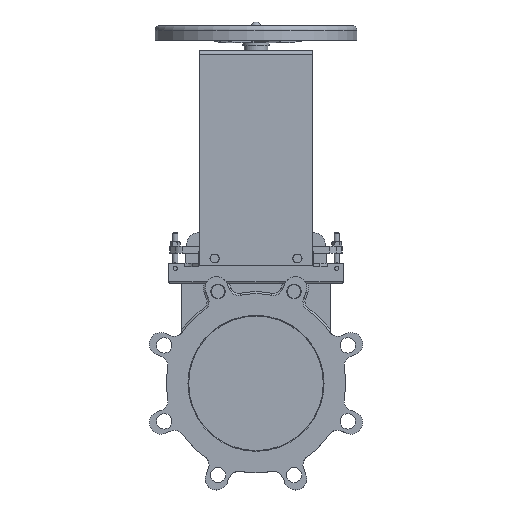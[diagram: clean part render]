
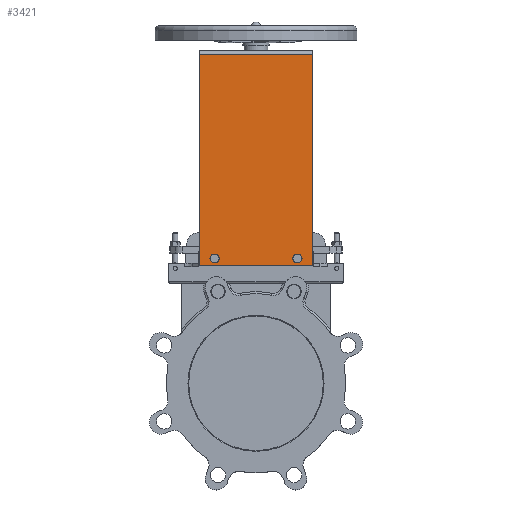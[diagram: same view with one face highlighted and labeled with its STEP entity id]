
A CAD part, top view. The second image highlights one B-rep face of the part: STEP entity #3421.
In plain terms, the highlighted planar face has unit normal (0, 0, 1).
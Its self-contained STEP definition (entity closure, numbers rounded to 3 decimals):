
#3421=ADVANCED_FACE('',(#10070,#10072,#10074),#10076,.F.);
#10070=FACE_BOUND('',#10071,.T.);
#10071=EDGE_LOOP('',(#15479,#15480,#15481,#15482));
#10072=FACE_BOUND('',#10073,.T.);
#10073=EDGE_LOOP('',(#15483));
#10074=FACE_BOUND('',#10075,.T.);
#10075=EDGE_LOOP('',(#15484));
#10076=PLANE('',#10077);
#10077=AXIS2_PLACEMENT_3D('',#10078,#10079,#10080);
#10078=CARTESIAN_POINT('',(0.,315.6,38.));
#10079=DIRECTION('',(0.,0.,-1.));
#10080=DIRECTION('',(-1.,0.,0.));
#15479=ORIENTED_EDGE('',*,*,#18222,.F.);
#15480=ORIENTED_EDGE('',*,*,#18037,.F.);
#15481=ORIENTED_EDGE('',*,*,#18098,.F.);
#15482=ORIENTED_EDGE('',*,*,#18052,.F.);
#15483=ORIENTED_EDGE('',*,*,#18223,.F.);
#15484=ORIENTED_EDGE('',*,*,#18224,.F.);
#18037=EDGE_CURVE('',#20656,#20658,#20659,.T.);
#18052=EDGE_CURVE('',#20684,#20686,#20687,.T.);
#18098=EDGE_CURVE('',#20686,#20656,#20740,.T.);
#18222=EDGE_CURVE('',#20658,#20684,#20936,.T.);
#18223=EDGE_CURVE('',#20937,#20937,#20938,.T.);
#18224=EDGE_CURVE('',#20939,#20939,#20940,.F.);
#20656=VERTEX_POINT('',#31279);
#20658=VERTEX_POINT('',#31283);
#20659=LINE('',#31284,#31285);
#20684=VERTEX_POINT('',#31342);
#20686=VERTEX_POINT('',#31347);
#20687=LINE('',#31348,#31349);
#20740=LINE('',#31616,#31617);
#20936=LINE('',#32709,#32710);
#20937=VERTEX_POINT('',#32712);
#20938=CIRCLE('',#32713,6.5);
#20939=VERTEX_POINT('',#32717);
#20940=CIRCLE('',#32718,6.5);
#31279=CARTESIAN_POINT('',(-83.914,174.343,38.));
#31283=CARTESIAN_POINT('',(-83.914,488.6,38.));
#31284=CARTESIAN_POINT('',(-83.914,174.343,38.));
#31285=VECTOR('',#31286,1.);
#31286=DIRECTION('',(0.,1.,0.));
#31342=CARTESIAN_POINT('',(83.914,488.6,38.));
#31347=CARTESIAN_POINT('',(83.914,174.343,38.));
#31348=CARTESIAN_POINT('',(83.914,488.6,38.));
#31349=VECTOR('',#31350,1.);
#31350=DIRECTION('',(0.,-1.,0.));
#31616=CARTESIAN_POINT('',(83.914,174.343,38.));
#31617=VECTOR('',#31618,1.);
#31618=DIRECTION('',(-1.,0.,0.));
#32709=CARTESIAN_POINT('',(-83.914,488.6,38.));
#32710=VECTOR('',#32711,1.);
#32711=DIRECTION('',(1.,0.,0.));
#32712=CARTESIAN_POINT('',(54.881,185.298,38.));
#32713=AXIS2_PLACEMENT_3D('',#32714,#32715,#32716);
#32714=CARTESIAN_POINT('',(61.381,185.298,38.));
#32715=DIRECTION('',(0.,0.,1.));
#32716=DIRECTION('',(-1.,0.,0.));
#32717=CARTESIAN_POINT('',(-54.881,185.298,38.));
#32718=AXIS2_PLACEMENT_3D('',#32719,#32720,#32721);
#32719=CARTESIAN_POINT('',(-61.381,185.298,38.));
#32720=DIRECTION('',(0.,0.,-1.));
#32721=DIRECTION('',(1.,0.,0.));
